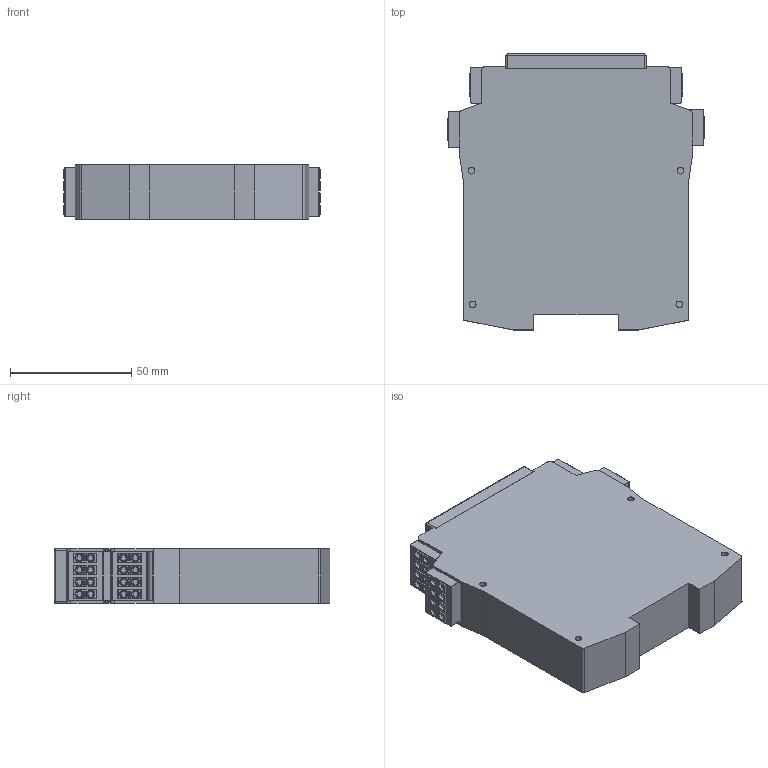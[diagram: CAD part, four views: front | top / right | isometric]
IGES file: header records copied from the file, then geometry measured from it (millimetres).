
Global section: file name: V:\Workgroups\wk_projekte_me\Projekte\KG5AT\P0781_Leuze_Brandlabel\3_Entwicklungsphase bis MS3\STEP_IGS_Dateien\R1_188_3908_0_E.igs; native system: NX V9.0; preprocessor: SIEMENS PLM Software NX 9.0; date: 20160425.104526; units: millimetre
Bounding box: 106.5 x 114 x 22.5 mm (x, y, z)
Surface area: 36940.1 mm2 (no closed solid volume)
Topology: 0 solids, 0 shells, 1063 faces, 5360 edges, 5336 vertices
Faces by surface type: bspline 1063
